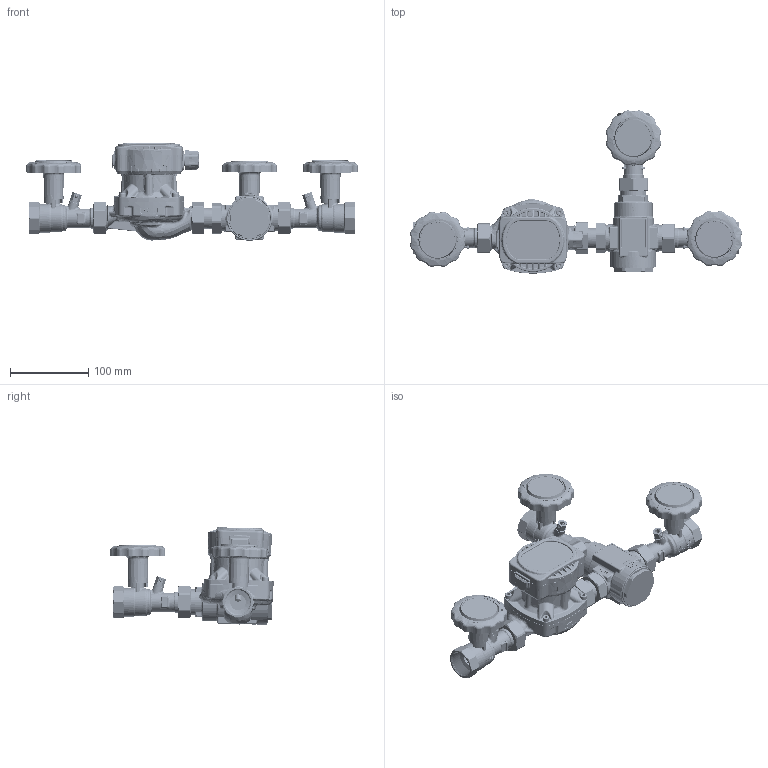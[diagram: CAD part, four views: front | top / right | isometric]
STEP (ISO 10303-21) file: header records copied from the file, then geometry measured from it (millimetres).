
FILE_DESCRIPTION (( 'STEP AP214' ), '1' );
FILE_NAME ('9011020.STEP', '2022-10-14T11:45:12', ( '' ), ( '' ), 'SwSTEP 2.0', 'SolidWorks 2022', '' );
FILE_SCHEMA (( 'AUTOMOTIVE_DESIGN' ));
Length unit declared in the file: millimetre
Products named in the file (35): 50905872_Nera; 31505091; L1605404; 9011020; 52110003; VALVOLA-ROSSA-1DFx1F-COD-2_ASSIEME; 52905973; 54705879; M1605404; ATV 225_G1_AFRISO_; VALVOLA-ROSSA-1DFx1F-COD-9_ASSIEME; 33208065; 23208006; 53105253; 54705880; 52005071; VALVOLA-BLU-1DFx1F-COD-1; 30505300; 53605974; 52905873; VALVOLA-BLU-1DFx1F-COD-7_Defalut; 31605332; 30525300; VALVOLA-ROSSA-1DFx1F-COD-1; 50705173; 30805032; 31505553; 52705005; 54305173; 30105655; VALVOLA-BLU-1DFx1F-COD-9; VALVOLA-BLU-1DFx1F-COD-2; VALVOLA-ROSSA-1DFx1F-COD-7_ASSIEME; APH-100-15-7-130_LFP; 33208005
Assembly tree (51 placements, depth 7):
  9011020
    M1605404
      L1605404
      53105253
      31505553
    VALVOLA-ROSSA-1DFx1F-COD-1  x2
      VALVOLA-ROSSA-1DFx1F-COD-7_ASSIEME
        VALVOLA-ROSSA-1DFx1F-COD-9_ASSIEME
          VALVOLA-ROSSA-1DFx1F-COD-2_ASSIEME
            30105655
            33208005
            52705005  x2
            30525300
              30505300
              52905873  x2
            31605332
          50905872_Nera
          31505091
          52005071
          52110003
          30805032
        53105253
        31505553
      54705880
    VALVOLA-BLU-1DFx1F-COD-1
      VALVOLA-BLU-1DFx1F-COD-7_Defalut
        VALVOLA-BLU-1DFx1F-COD-9
          VALVOLA-BLU-1DFx1F-COD-2
            30105655
            52705005  x2
            30525300
              30505300
              52905873  x2
            31605332
            23208006
              33208065
              50705173
              54305173
              52905973
              53605974
          50905872_Nera
          31505091
          52005071
          52110003
          30805032
        53105253
        31505553
      54705879
    ATV 225_G1_AFRISO_
    APH-100-15-7-130_LFP
Bounding box: 424.55 x 208.92 x 124.7 mm (x, y, z)
Volume: 1004826.2 mm3; surface area: 348606.8 mm2
Topology: 73 solids, 79 shells, 10827 faces, 26598 edges, 16349 vertices
Faces by surface type: plane 3422, bspline 2992, cylinder 2221, cone 2138, torus 54
Entity records: 346391 total; most frequent: CARTESIAN_POINT 207160, ORIENTED_EDGE 32574, DIRECTION 22762, EDGE_CURVE 16287, VERTEX_POINT 10046, AXIS2_PLACEMENT_3D 8196, EDGE_LOOP 7099, FACE_OUTER_BOUND 6675
